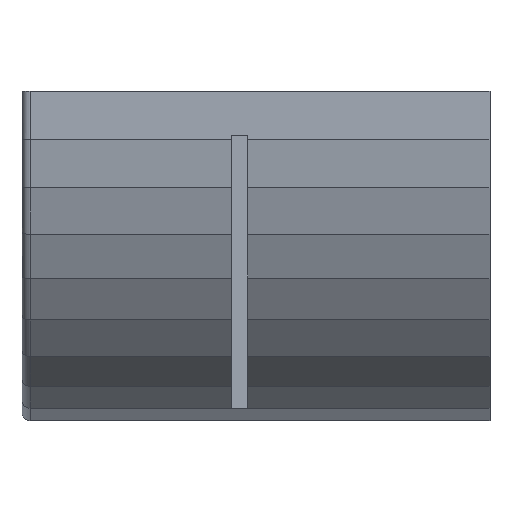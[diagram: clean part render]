
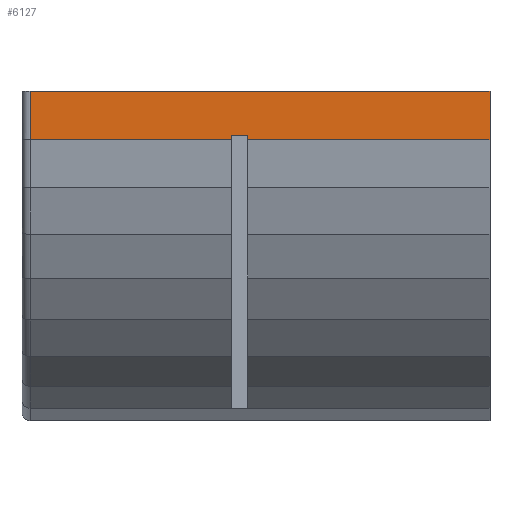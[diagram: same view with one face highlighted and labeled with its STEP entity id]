
A CAD part, left-side view. The second image highlights one B-rep face of the part: STEP entity #6127.
In plain terms, the highlighted planar face has unit normal (-1, 0, 0).
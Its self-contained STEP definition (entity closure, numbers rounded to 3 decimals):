
#23 = LINE ( 'NONE', #658, #3258 ) ;
#132 = LINE ( 'NONE', #5704, #558 ) ;
#171 = EDGE_CURVE ( 'NONE', #2138, #3202, #5096, .T. ) ;
#404 = DIRECTION ( 'NONE',  ( 0., 0., -1. ) ) ;
#439 = CARTESIAN_POINT ( 'NONE',  ( -227.405, -79.782, 1111.076 ) ) ;
#498 = VERTEX_POINT ( 'NONE', #3401 ) ;
#558 = VECTOR ( 'NONE', #5099, 1000. ) ;
#567 = CARTESIAN_POINT ( 'NONE',  ( -227.405, -79.782, 1187.276 ) ) ;
#608 = LINE ( 'NONE', #2528, #5694 ) ;
#658 = CARTESIAN_POINT ( 'NONE',  ( -227.405, 638.618, 1111.076 ) ) ;
#665 = DIRECTION ( 'NONE',  ( 0., 0., -1. ) ) ;
#683 = VECTOR ( 'NONE', #665, 1000. ) ;
#1034 = EDGE_CURVE ( 'NONE', #5379, #2887, #3551, .T. ) ;
#1166 = FACE_OUTER_BOUND ( 'NONE', #3836, .T. ) ;
#1248 = DIRECTION ( 'NONE',  ( 0., 0., -1. ) ) ;
#2013 = CARTESIAN_POINT ( 'NONE',  ( -227.405, 644.118, 1111.076 ) ) ;
#2138 = VERTEX_POINT ( 'NONE', #5448 ) ;
#2313 = CARTESIAN_POINT ( 'NONE',  ( -227.405, 301.218, 1111.076 ) ) ;
#2413 = EDGE_CURVE ( 'NONE', #2138, #5379, #132, .T. ) ;
#2528 = CARTESIAN_POINT ( 'NONE',  ( -227.405, 638.618, 1116.943 ) ) ;
#2559 = EDGE_CURVE ( 'NONE', #3931, #498, #5590, .T. ) ;
#2630 = CARTESIAN_POINT ( 'NONE',  ( -227.405, 326.618, 1187.276 ) ) ;
#2802 = ORIENTED_EDGE ( 'NONE', *, *, #1034, .F. ) ;
#2887 = VERTEX_POINT ( 'NONE', #439 ) ;
#2942 = VERTEX_POINT ( 'NONE', #2313 ) ;
#2951 = LINE ( 'NONE', #4099, #3263 ) ;
#3015 = CARTESIAN_POINT ( 'NONE',  ( -227.405, 1236.073, 1111.076 ) ) ;
#3040 = DIRECTION ( 'NONE',  ( 0., 0., 1. ) ) ;
#3202 = VERTEX_POINT ( 'NONE', #3491 ) ;
#3258 = VECTOR ( 'NONE', #6791, 1000. ) ;
#3263 = VECTOR ( 'NONE', #4822, 1000. ) ;
#3338 = ORIENTED_EDGE ( 'NONE', *, *, #2559, .F. ) ;
#3386 = VECTOR ( 'NONE', #7244, 1000. ) ;
#3397 = EDGE_CURVE ( 'NONE', #3931, #6282, #608, .T. ) ;
#3401 = CARTESIAN_POINT ( 'NONE',  ( -227.405, 326.618, 1111.076 ) ) ;
#3491 = CARTESIAN_POINT ( 'NONE',  ( -227.405, 644.118, 1111.076 ) ) ;
#3551 = LINE ( 'NONE', #567, #4762 ) ;
#3626 = LINE ( 'NONE', #3015, #3386 ) ;
#3651 = ORIENTED_EDGE ( 'NONE', *, *, #2413, .F. ) ;
#3688 = CARTESIAN_POINT ( 'NONE',  ( -227.405, 638.618, 1187.276 ) ) ;
#3715 = ORIENTED_EDGE ( 'NONE', *, *, #3397, .T. ) ;
#3797 = DIRECTION ( 'NONE',  ( 0., -1., 0. ) ) ;
#3801 = ORIENTED_EDGE ( 'NONE', *, *, #7304, .F. ) ;
#3836 = EDGE_LOOP ( 'NONE', ( #3338, #3715, #3801, #4888, #2802, #3651, #7532, #4293 ) ) ;
#3931 = VERTEX_POINT ( 'NONE', #6934 ) ;
#4050 = CARTESIAN_POINT ( 'NONE',  ( -227.405, 301.218, 1116.943 ) ) ;
#4099 = CARTESIAN_POINT ( 'NONE',  ( -227.405, 301.218, 1187.276 ) ) ;
#4107 = CARTESIAN_POINT ( 'NONE',  ( -227.405, -79.782, 1187.276 ) ) ;
#4252 = PLANE ( 'NONE',  #6321 ) ;
#4293 = ORIENTED_EDGE ( 'NONE', *, *, #7107, .T. ) ;
#4332 = DIRECTION ( 'NONE',  ( -1., 0., 0. ) ) ;
#4762 = VECTOR ( 'NONE', #404, 1000. ) ;
#4822 = DIRECTION ( 'NONE',  ( 0., 0., 1. ) ) ;
#4888 = ORIENTED_EDGE ( 'NONE', *, *, #6622, .T. ) ;
#5096 = LINE ( 'NONE', #2013, #7879 ) ;
#5099 = DIRECTION ( 'NONE',  ( 0., -1., 0. ) ) ;
#5379 = VERTEX_POINT ( 'NONE', #4107 ) ;
#5448 = CARTESIAN_POINT ( 'NONE',  ( -227.405, 644.118, 1187.276 ) ) ;
#5590 = LINE ( 'NONE', #2630, #683 ) ;
#5694 = VECTOR ( 'NONE', #3797, 1000. ) ;
#5704 = CARTESIAN_POINT ( 'NONE',  ( -227.405, 638.618, 1187.276 ) ) ;
#6127 = ADVANCED_FACE ( 'NONE', ( #1166 ), #4252, .T. ) ;
#6282 = VERTEX_POINT ( 'NONE', #4050 ) ;
#6321 = AXIS2_PLACEMENT_3D ( 'NONE', #3688, #4332, #3040 ) ;
#6622 = EDGE_CURVE ( 'NONE', #2942, #2887, #3626, .T. ) ;
#6791 = DIRECTION ( 'NONE',  ( 0., -1., 0. ) ) ;
#6934 = CARTESIAN_POINT ( 'NONE',  ( -227.405, 326.618, 1116.943 ) ) ;
#7107 = EDGE_CURVE ( 'NONE', #3202, #498, #23, .T. ) ;
#7244 = DIRECTION ( 'NONE',  ( 0., -1., 0. ) ) ;
#7304 = EDGE_CURVE ( 'NONE', #2942, #6282, #2951, .T. ) ;
#7532 = ORIENTED_EDGE ( 'NONE', *, *, #171, .T. ) ;
#7879 = VECTOR ( 'NONE', #1248, 1000. ) ;
